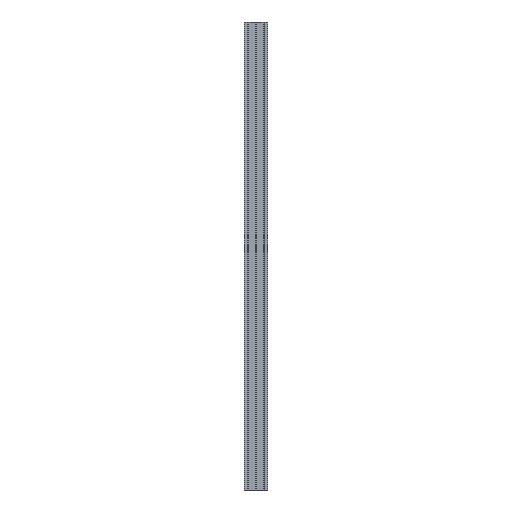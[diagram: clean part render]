
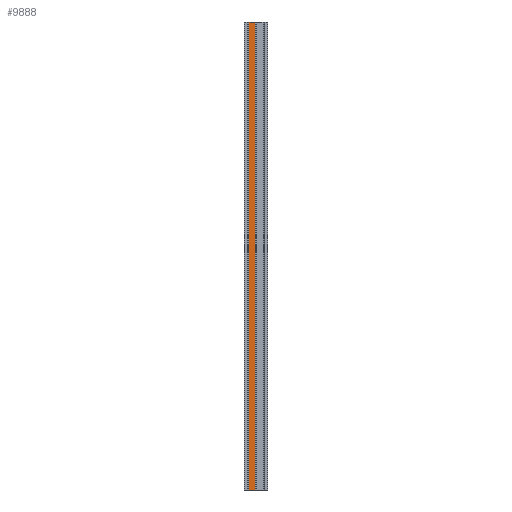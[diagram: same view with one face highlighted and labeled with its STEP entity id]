
A CAD part, front view. The second image highlights one B-rep face of the part: STEP entity #9888.
In plain terms, the highlighted planar face has unit normal (0, -1, 0).
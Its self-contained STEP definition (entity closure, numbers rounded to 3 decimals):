
#80 = ORIENTED_EDGE ( 'NONE', *, *, #5573, .T. ) ;
#81 = ORIENTED_EDGE ( 'NONE', *, *, #5883, .F. ) ;
#82 = ORIENTED_EDGE ( 'NONE', *, *, #6413, .F. ) ;
#83 = ORIENTED_EDGE ( 'NONE', *, *, #5880, .T. ) ;
#1212 = CARTESIAN_POINT ( 'NONE',  ( -45.15, -32.5, 1500. ) ) ;
#1213 = DIRECTION ( 'NONE',  ( 0., 0., -1. ) ) ;
#1214 = CARTESIAN_POINT ( 'NONE',  ( -4.85, -32.5, 1500. ) ) ;
#1215 = DIRECTION ( 'NONE',  ( 0., 0., -1. ) ) ;
#1410 = VECTOR ( 'NONE', #6265, 1000. ) ;
#1478 = LINE ( 'NONE', #6263, #1410 ) ;
#2061 = LINE ( 'NONE', #1212, #2064 ) ;
#2063 = LINE ( 'NONE', #1214, #2066 ) ;
#2064 = VECTOR ( 'NONE', #1213, 1000. ) ;
#2066 = VECTOR ( 'NONE', #1215, 1000. ) ;
#3231 = AXIS2_PLACEMENT_3D ( 'NONE', #8656, #8665, #8666 ) ;
#3664 = VECTOR ( 'NONE', #10385, 1000. ) ;
#3669 = LINE ( 'NONE', #10380, #3664 ) ;
#4708 = FACE_OUTER_BOUND ( 'NONE', #8009, .T. ) ;
#5573 = EDGE_CURVE ( 'NONE', #7196, #7197, #3669, .T. ) ;
#5880 = EDGE_CURVE ( 'NONE', #7464, #7196, #2061, .T. ) ;
#5883 = EDGE_CURVE ( 'NONE', #7463, #7197, #2063, .T. ) ;
#6263 = CARTESIAN_POINT ( 'NONE',  ( -4.85, -32.5, 1500. ) ) ;
#6265 = DIRECTION ( 'NONE',  ( 1., 0., 0. ) ) ;
#6413 = EDGE_CURVE ( 'NONE', #7464, #7463, #1478, .T. ) ;
#7196 = VERTEX_POINT ( 'NONE', #9273 ) ;
#7197 = VERTEX_POINT ( 'NONE', #9274 ) ;
#7463 = VERTEX_POINT ( 'NONE', #8964 ) ;
#7464 = VERTEX_POINT ( 'NONE', #8965 ) ;
#8009 = EDGE_LOOP ( 'NONE', ( #80, #81, #82, #83 ) ) ;
#8656 = CARTESIAN_POINT ( 'NONE',  ( -4.85, -32.5, 1500. ) ) ;
#8663 = PLANE ( 'NONE',  #3231 ) ;
#8665 = DIRECTION ( 'NONE',  ( 0., 1., 0. ) ) ;
#8666 = DIRECTION ( 'NONE',  ( -1., 0., 0. ) ) ;
#8964 = CARTESIAN_POINT ( 'NONE',  ( -4.85, -32.5, 1500. ) ) ;
#8965 = CARTESIAN_POINT ( 'NONE',  ( -45.15, -32.5, 1500. ) ) ;
#9273 = CARTESIAN_POINT ( 'NONE',  ( -45.15, -32.5, -1500. ) ) ;
#9274 = CARTESIAN_POINT ( 'NONE',  ( -4.85, -32.5, -1500. ) ) ;
#9888 = ADVANCED_FACE ( 'NONE', ( #4708 ), #8663, .F. ) ;
#10380 = CARTESIAN_POINT ( 'NONE',  ( -4.85, -32.5, -1500. ) ) ;
#10385 = DIRECTION ( 'NONE',  ( 1., 0., 0. ) ) ;
